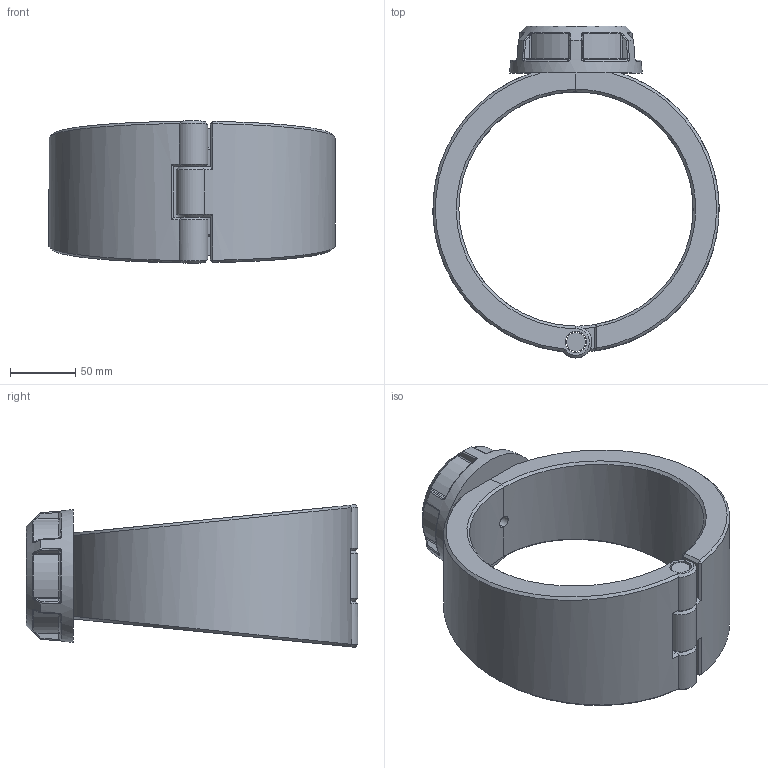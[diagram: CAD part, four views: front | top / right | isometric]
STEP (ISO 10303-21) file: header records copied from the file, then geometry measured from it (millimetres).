
FILE_DESCRIPTION(/* description */ ('Plassadle Threaded 180x1/2'''''),/* implementation_level */ '2;1');
FILE_NAME(/* name */ 'C:\Users\comp2\Dropbox\99-16-3568-Processing\Mechanical Fittings\16300\stp\163000180005.stp',/* time_stamp */ '2022-02-03T11:52:23+00:00',/* author */ ('comp2'),/* organization */ (''),/* preprocessor_version */ 'ST-DEVELOPER v17.2',/* originating_system */ 'Autodesk Inventor 2019',/* authorisation */ '');
FILE_SCHEMA (('AUTOMOTIVE_DESIGN { 1 0 10303 214 3 1 1 }'));
Length unit declared in the file: millimetre
Products named in the file (1): 163000180005
Bounding box: 219.93 x 254.98 x 109.6 mm (x, y, z)
Volume: 1290940.2 mm3; surface area: 175421.5 mm2
Topology: 4 solids, 4 shells, 203 faces, 486 edges, 293 vertices
Faces by surface type: bspline 58, plane 53, cylinder 47, torus 18, cone 15, sphere 12
Full cylindrical faces by diameter (mm): 9.316 x1, 14.4 x1, 15.836 x1, 16.4 x3, 18.631 x1, 27.947 x1
Entity records: 8238 total; most frequent: CARTESIAN_POINT 3891, ORIENTED_EDGE 972, DIRECTION 781, EDGE_CURVE 486, AXIS2_PLACEMENT_3D 330, VERTEX_POINT 293, EDGE_LOOP 213, FACE_OUTER_BOUND 203
